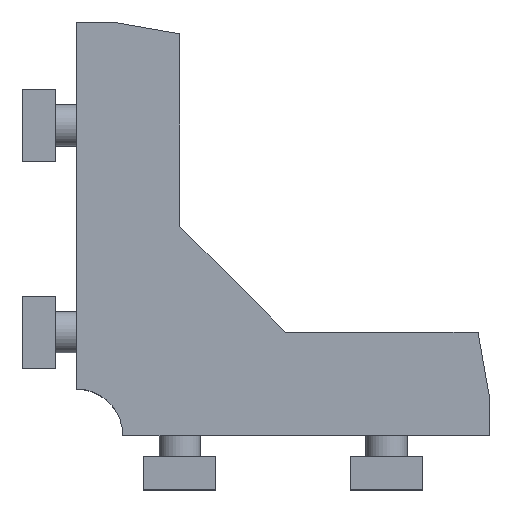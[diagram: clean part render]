
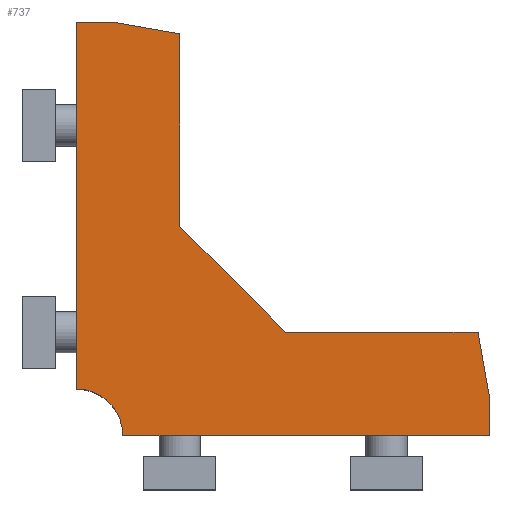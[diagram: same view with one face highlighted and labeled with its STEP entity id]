
A CAD part, top view. The second image highlights one B-rep face of the part: STEP entity #737.
In plain terms, the highlighted planar face has unit normal (0, 0, 1).
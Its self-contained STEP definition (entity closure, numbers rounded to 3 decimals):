
#367=CARTESIAN_POINT('',(0.,9.,17.5));
#368=VERTEX_POINT('',#367);
#369=CARTESIAN_POINT('',(9.,0.0,17.5));
#370=VERTEX_POINT('',#369);
#371=CARTESIAN_POINT('',(0.0,0.0,17.5));
#372=DIRECTION('',(0.0,0.0,-1.0));
#373=DIRECTION('',(-1.0,0.0,0.0));
#374=AXIS2_PLACEMENT_3D('',#371,#372,#373);
#375=CIRCLE('',#374,9.);
#376=EDGE_CURVE('',#368,#370,#375,.T.);
#497=CARTESIAN_POINT('',(0.,80.,17.5));
#498=VERTEX_POINT('',#497);
#505=CARTESIAN_POINT('',(7.,80.,17.5));
#506=VERTEX_POINT('',#505);
#507=CARTESIAN_POINT('',(0.,80.,17.5));
#508=DIRECTION('',(1.0,0.0,0.0));
#509=VECTOR('',#508,7.);
#510=LINE('',#507,#509);
#511=EDGE_CURVE('',#498,#506,#510,.T.);
#618=CARTESIAN_POINT('',(80.,7.,17.5));
#619=VERTEX_POINT('',#618);
#626=CARTESIAN_POINT('',(80.,0.0,17.5));
#627=VERTEX_POINT('',#626);
#628=CARTESIAN_POINT('',(80.,7.,17.5));
#629=DIRECTION('',(0.0,-1.0,0.0));
#630=VECTOR('',#629,7.);
#631=LINE('',#628,#630);
#632=EDGE_CURVE('',#619,#627,#631,.T.);
#677=CARTESIAN_POINT('',(29.044,29.044,17.5));
#678=DIRECTION('',(0.0,0.0,1.0));
#679=DIRECTION('',(1.0,0.0,0.0));
#680=AXIS2_PLACEMENT_3D('',#677,#678,#679);
#681=PLANE('',#680);
#682=ORIENTED_EDGE('',*,*,#376,.T.);
#683=CARTESIAN_POINT('',(80.,0.0,17.5));
#684=DIRECTION('',(-1.0,0.0,0.0));
#685=VECTOR('',#684,71.);
#686=LINE('',#683,#685);
#687=EDGE_CURVE('',#627,#370,#686,.T.);
#688=ORIENTED_EDGE('',*,*,#687,.F.);
#689=ORIENTED_EDGE('',*,*,#632,.F.);
#690=CARTESIAN_POINT('',(77.708,20.,17.5));
#691=VERTEX_POINT('',#690);
#692=CARTESIAN_POINT('',(77.708,20.,17.5));
#693=DIRECTION('',(0.174,-0.985,0.0));
#694=VECTOR('',#693,13.201);
#695=LINE('',#692,#694);
#696=EDGE_CURVE('',#691,#619,#695,.T.);
#697=ORIENTED_EDGE('',*,*,#696,.F.);
#698=CARTESIAN_POINT('',(40.5,20.,17.5));
#699=VERTEX_POINT('',#698);
#700=CARTESIAN_POINT('',(40.5,20.,17.5));
#701=DIRECTION('',(1.0,0.0,0.0));
#702=VECTOR('',#701,37.208);
#703=LINE('',#700,#702);
#704=EDGE_CURVE('',#699,#691,#703,.T.);
#705=ORIENTED_EDGE('',*,*,#704,.F.);
#706=CARTESIAN_POINT('',(20.,40.5,17.5));
#707=VERTEX_POINT('',#706);
#708=CARTESIAN_POINT('',(20.,40.5,17.5));
#709=DIRECTION('',(0.707,-0.707,0.0));
#710=VECTOR('',#709,28.991);
#711=LINE('',#708,#710);
#712=EDGE_CURVE('',#707,#699,#711,.T.);
#713=ORIENTED_EDGE('',*,*,#712,.F.);
#714=CARTESIAN_POINT('',(20.,77.708,17.5));
#715=VERTEX_POINT('',#714);
#716=CARTESIAN_POINT('',(20.,77.708,17.5));
#717=DIRECTION('',(0.0,-1.0,0.0));
#718=VECTOR('',#717,37.208);
#719=LINE('',#716,#718);
#720=EDGE_CURVE('',#715,#707,#719,.T.);
#721=ORIENTED_EDGE('',*,*,#720,.F.);
#722=CARTESIAN_POINT('',(7.,80.,17.5));
#723=DIRECTION('',(0.985,-0.174,0.0));
#724=VECTOR('',#723,13.201);
#725=LINE('',#722,#724);
#726=EDGE_CURVE('',#506,#715,#725,.T.);
#727=ORIENTED_EDGE('',*,*,#726,.F.);
#728=ORIENTED_EDGE('',*,*,#511,.F.);
#729=CARTESIAN_POINT('',(0.,9.,17.5));
#730=DIRECTION('',(0.0,1.0,0.0));
#731=VECTOR('',#730,71.);
#732=LINE('',#729,#731);
#733=EDGE_CURVE('',#368,#498,#732,.T.);
#734=ORIENTED_EDGE('',*,*,#733,.F.);
#735=EDGE_LOOP('',(#682,#688,#689,#697,#705,#713,#721,#727,#728,#734));
#736=FACE_OUTER_BOUND('',#735,.T.);
#737=ADVANCED_FACE('',(#736),#681,.T.);
